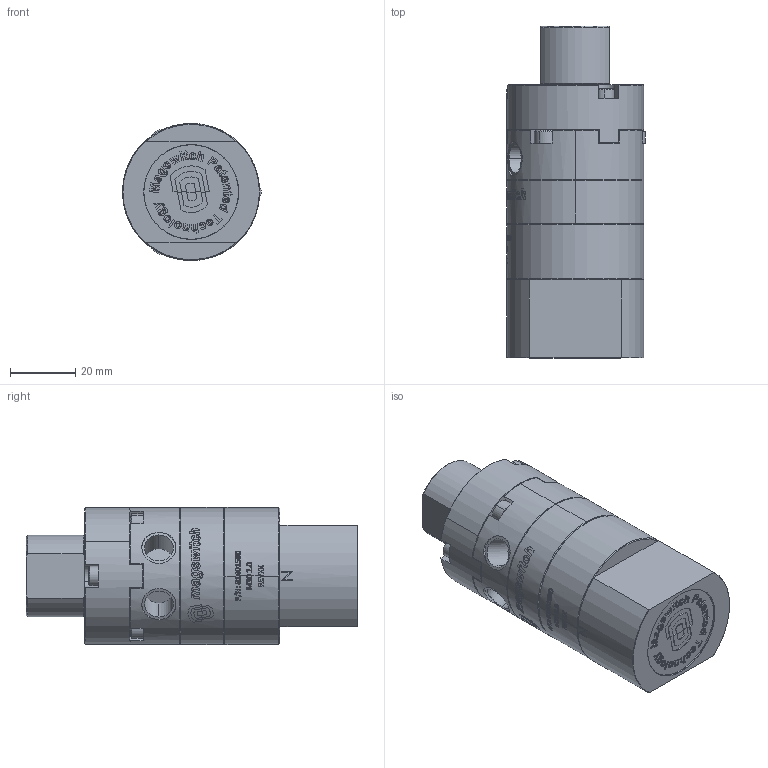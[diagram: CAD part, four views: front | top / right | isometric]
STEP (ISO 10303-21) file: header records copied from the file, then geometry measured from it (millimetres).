
FILE_DESCRIPTION (( 'STEP AP203' ), '1' );
FILE_NAME ('80001590_s.STEP', '2023-11-22T18:02:39', ( '' ), ( '' ), 'SwSTEP 2.0', 'SolidWorks 2022', '' );
FILE_SCHEMA (( 'CONFIG_CONTROL_DESIGN' ));
Products named in the file (1): 80001590_s
Bounding box: 42.5 x 101.7 x 42 mm (x, y, z)
Volume: 114436 mm3; surface area: 38884 mm2
Topology: 18 solids, 18 shells, 1595 faces, 4265 edges, 2845 vertices
Faces by surface type: plane 693, bspline 455, cylinder 254, cone 193
Entity records: 74755 total; most frequent: CARTESIAN_POINT 38123, ORIENTED_EDGE 8494, DIRECTION 5911, EDGE_CURVE 4247, VERTEX_POINT 2845, LINE 2201, VECTOR 2201, AXIS2_PLACEMENT_3D 1855
